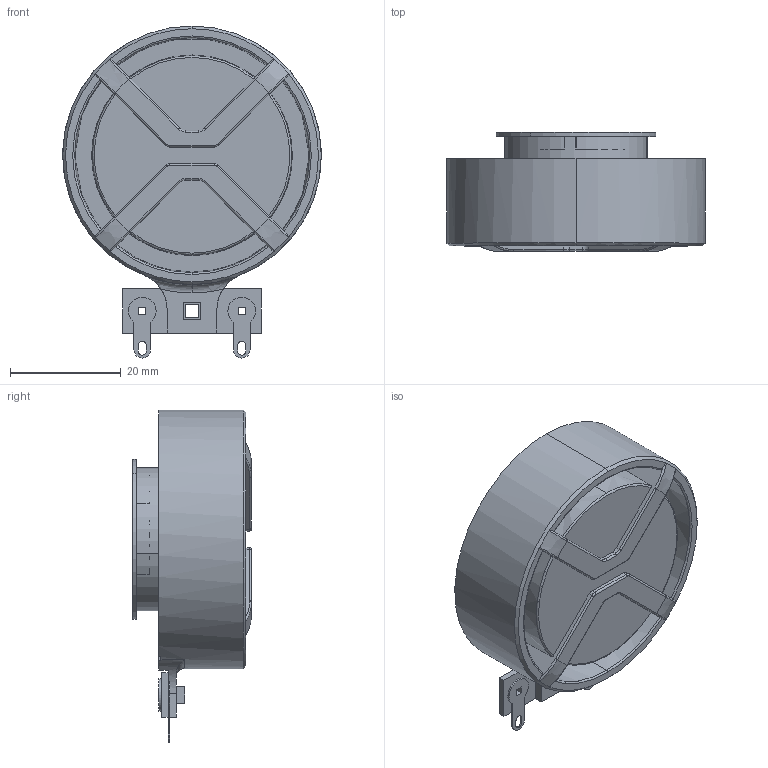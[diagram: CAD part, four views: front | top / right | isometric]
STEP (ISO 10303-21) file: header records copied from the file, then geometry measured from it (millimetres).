
FILE_DESCRIPTION (( 'STEP AP214' ), '1' );
FILE_NAME ('XT25_CAD.STEP', '2025-12-22T05:53:30', ( '' ), ( '' ), 'SwSTEP 2.0', 'SolidWorks 2022', '' );
FILE_SCHEMA (( 'AUTOMOTIVE_DESIGN' ));
Length unit declared in the file: millimetre
Products named in the file (7): XT25_Basket_CAD; XT25_Spider_CAD; XT25_Terminal_CAD; XT25_CAD; XT25_VoiceCoilFormer_CAD; XT25_Coupler_CAD; XT25_ClampingRing_CAD
Assembly tree (6 placements, depth 2):
  XT25_CAD
    XT25_Basket_CAD
    XT25_VoiceCoilFormer_CAD
    XT25_Coupler_CAD
    XT25_Spider_CAD
    XT25_ClampingRing_CAD
    XT25_Terminal_CAD
Bounding box: 46.78 x 21.5 x 60.06 mm (x, y, z)
Volume: 10006.6 mm3; surface area: 17619.2 mm2
Topology: 6 solids, 6 shells, 305 faces, 771 edges, 484 vertices
Faces by surface type: plane 128, cylinder 87, torus 40, cone 38, bspline 12
Entity records: 10129 total; most frequent: CARTESIAN_POINT 2253, DIRECTION 1563, ORIENTED_EDGE 1542, EDGE_CURVE 771, AXIS2_PLACEMENT_3D 596, VERTEX_POINT 484, LINE 371, VECTOR 371
